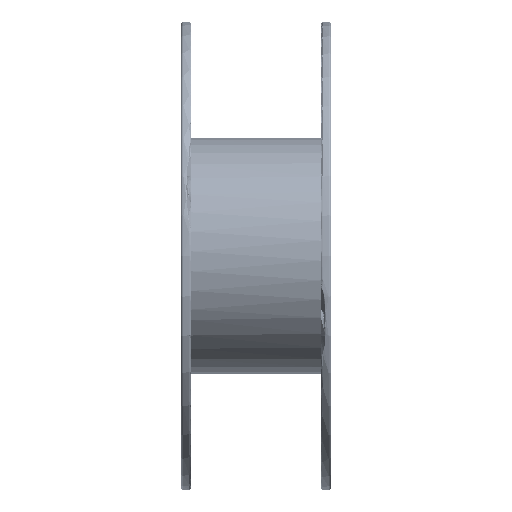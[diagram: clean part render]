
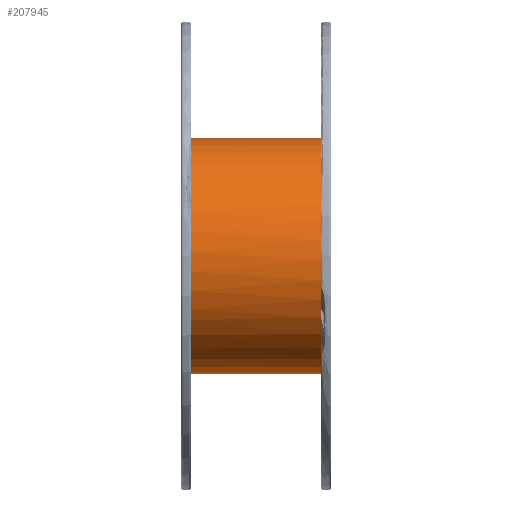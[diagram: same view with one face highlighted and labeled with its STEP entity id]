
A CAD part, front view. The second image highlights one B-rep face of the part: STEP entity #207945.
In plain terms, the highlighted cylindrical face has radius 50.3 mm (diameter 100.6 mm), a full revolution.
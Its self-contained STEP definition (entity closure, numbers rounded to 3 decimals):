
#11743=FACE_OUTER_BOUND('',#22799,.T.);
#22799=EDGE_LOOP('',(#139669,#139670,#139671,#139672,#139673,#139674,#139675,
#139676,#139677,#139678,#139679,#139680,#139681,#139682,#139683,#139684,
#139685,#139686,#139687,#139688));
#35437=LINE('',#295807,#56455);
#56455=VECTOR('',#237615,50.3);
#77473=CIRCLE('',#219023,50.3);
#77474=CIRCLE('',#219024,50.3);
#77475=CIRCLE('',#219026,50.3);
#77476=CIRCLE('',#219028,50.3);
#77477=CIRCLE('',#219030,50.3);
#77478=CIRCLE('',#219032,50.3);
#77479=CIRCLE('',#219033,50.3);
#77480=CIRCLE('',#219035,50.3);
#77481=CIRCLE('',#219037,50.3);
#77482=CIRCLE('',#219039,50.3);
#78461=ELLIPSE('',#219022,961.098,50.3);
#78462=ELLIPSE('',#219025,961.098,50.3);
#78463=ELLIPSE('',#219027,961.098,50.3);
#78464=ELLIPSE('',#219029,961.098,50.3);
#78465=ELLIPSE('',#219031,961.098,50.3);
#78466=ELLIPSE('',#219034,961.098,50.3);
#78467=ELLIPSE('',#219036,961.098,50.3);
#78468=ELLIPSE('',#219038,961.098,50.3);
#85947=VERTEX_POINT('',#295801);
#85948=VERTEX_POINT('',#295802);
#85949=VERTEX_POINT('',#295804);
#85950=VERTEX_POINT('',#295806);
#85951=VERTEX_POINT('',#295808);
#85952=VERTEX_POINT('',#295810);
#85953=VERTEX_POINT('',#295812);
#85954=VERTEX_POINT('',#295814);
#85955=VERTEX_POINT('',#295816);
#85956=VERTEX_POINT('',#295818);
#85957=VERTEX_POINT('',#295820);
#85958=VERTEX_POINT('',#295822);
#85959=VERTEX_POINT('',#295825);
#85960=VERTEX_POINT('',#295827);
#85961=VERTEX_POINT('',#295829);
#85962=VERTEX_POINT('',#295831);
#85963=VERTEX_POINT('',#295833);
#85964=VERTEX_POINT('',#295835);
#107383=EDGE_CURVE('',#85947,#85948,#78461,.T.);
#107384=EDGE_CURVE('',#85949,#85947,#77473,.T.);
#107385=EDGE_CURVE('',#85949,#85950,#35437,.T.);
#107386=EDGE_CURVE('',#85950,#85951,#77474,.T.);
#107387=EDGE_CURVE('',#85951,#85952,#78462,.T.);
#107388=EDGE_CURVE('',#85953,#85952,#77475,.T.);
#107389=EDGE_CURVE('',#85953,#85954,#78463,.T.);
#107390=EDGE_CURVE('',#85954,#85955,#77476,.T.);
#107391=EDGE_CURVE('',#85955,#85956,#78464,.T.);
#107392=EDGE_CURVE('',#85957,#85956,#77477,.T.);
#107393=EDGE_CURVE('',#85957,#85958,#78465,.T.);
#107394=EDGE_CURVE('',#85958,#85950,#77478,.T.);
#107395=EDGE_CURVE('',#85959,#85949,#77479,.T.);
#107396=EDGE_CURVE('',#85960,#85959,#78466,.T.);
#107397=EDGE_CURVE('',#85961,#85960,#77480,.T.);
#107398=EDGE_CURVE('',#85962,#85961,#78467,.T.);
#107399=EDGE_CURVE('',#85963,#85962,#77481,.T.);
#107400=EDGE_CURVE('',#85964,#85963,#78468,.T.);
#107401=EDGE_CURVE('',#85948,#85964,#77482,.T.);
#139669=ORIENTED_EDGE('',*,*,#107383,.F.);
#139670=ORIENTED_EDGE('',*,*,#107384,.F.);
#139671=ORIENTED_EDGE('',*,*,#107385,.T.);
#139672=ORIENTED_EDGE('',*,*,#107386,.T.);
#139673=ORIENTED_EDGE('',*,*,#107387,.T.);
#139674=ORIENTED_EDGE('',*,*,#107388,.F.);
#139675=ORIENTED_EDGE('',*,*,#107389,.T.);
#139676=ORIENTED_EDGE('',*,*,#107390,.T.);
#139677=ORIENTED_EDGE('',*,*,#107391,.T.);
#139678=ORIENTED_EDGE('',*,*,#107392,.F.);
#139679=ORIENTED_EDGE('',*,*,#107393,.T.);
#139680=ORIENTED_EDGE('',*,*,#107394,.T.);
#139681=ORIENTED_EDGE('',*,*,#107385,.F.);
#139682=ORIENTED_EDGE('',*,*,#107395,.F.);
#139683=ORIENTED_EDGE('',*,*,#107396,.F.);
#139684=ORIENTED_EDGE('',*,*,#107397,.F.);
#139685=ORIENTED_EDGE('',*,*,#107398,.F.);
#139686=ORIENTED_EDGE('',*,*,#107399,.F.);
#139687=ORIENTED_EDGE('',*,*,#107400,.F.);
#139688=ORIENTED_EDGE('',*,*,#107401,.F.);
#204241=CYLINDRICAL_SURFACE('',#219021,50.3);
#207945=ADVANCED_FACE('',(#11743),#204241,.T.);
#219021=AXIS2_PLACEMENT_3D('',#295800,#237609,#237610);
#219022=AXIS2_PLACEMENT_3D('',#295803,#237611,#237612);
#219023=AXIS2_PLACEMENT_3D('',#295805,#237613,#237614);
#219024=AXIS2_PLACEMENT_3D('',#295809,#237616,#237617);
#219025=AXIS2_PLACEMENT_3D('',#295811,#237618,#237619);
#219026=AXIS2_PLACEMENT_3D('',#295813,#237620,#237621);
#219027=AXIS2_PLACEMENT_3D('',#295815,#237622,#237623);
#219028=AXIS2_PLACEMENT_3D('',#295817,#237624,#237625);
#219029=AXIS2_PLACEMENT_3D('',#295819,#237626,#237627);
#219030=AXIS2_PLACEMENT_3D('',#295821,#237628,#237629);
#219031=AXIS2_PLACEMENT_3D('',#295823,#237630,#237631);
#219032=AXIS2_PLACEMENT_3D('',#295824,#237632,#237633);
#219033=AXIS2_PLACEMENT_3D('',#295826,#237634,#237635);
#219034=AXIS2_PLACEMENT_3D('',#295828,#237636,#237637);
#219035=AXIS2_PLACEMENT_3D('',#295830,#237638,#237639);
#219036=AXIS2_PLACEMENT_3D('',#295832,#237640,#237641);
#219037=AXIS2_PLACEMENT_3D('',#295834,#237642,#237643);
#219038=AXIS2_PLACEMENT_3D('',#295836,#237644,#237645);
#219039=AXIS2_PLACEMENT_3D('',#295837,#237646,#237647);
#237609=DIRECTION('center_axis',(-1.,0.,0.));
#237610=DIRECTION('ref_axis',(0.,0.,-1.));
#237611=DIRECTION('center_axis',(0.052,0.,
0.999));
#237612=DIRECTION('ref_axis',(0.999,0.,-0.052));
#237613=DIRECTION('center_axis',(-1.,0.,0.));
#237614=DIRECTION('ref_axis',(0.,0.,1.));
#237615=DIRECTION('',(1.,0.,0.));
#237616=DIRECTION('center_axis',(-1.,0.,0.));
#237617=DIRECTION('ref_axis',(0.,0.,-1.));
#237618=DIRECTION('center_axis',(0.052,0.865,-0.499));
#237619=DIRECTION('ref_axis',(-0.999,0.045,-0.026));
#237620=DIRECTION('center_axis',(1.,0.,0.));
#237621=DIRECTION('ref_axis',(0.,0.,-1.));
#237622=DIRECTION('center_axis',(0.052,0.,
0.999));
#237623=DIRECTION('ref_axis',(0.999,0.,-0.052));
#237624=DIRECTION('center_axis',(-1.,0.,0.));
#237625=DIRECTION('ref_axis',(0.,0.,-1.));
#237626=DIRECTION('center_axis',(0.052,0.,
0.999));
#237627=DIRECTION('ref_axis',(0.999,0.,-0.052));
#237628=DIRECTION('center_axis',(1.,0.,0.));
#237629=DIRECTION('ref_axis',(0.,0.,-1.));
#237630=DIRECTION('center_axis',(0.052,-0.865,
-0.499));
#237631=DIRECTION('ref_axis',(-0.999,-0.045,-0.026));
#237632=DIRECTION('center_axis',(-1.,0.,0.));
#237633=DIRECTION('ref_axis',(0.,0.,-1.));
#237634=DIRECTION('center_axis',(-1.,0.,0.));
#237635=DIRECTION('ref_axis',(0.,0.,1.));
#237636=DIRECTION('center_axis',(0.052,0.,
0.999));
#237637=DIRECTION('ref_axis',(0.999,0.,-0.052));
#237638=DIRECTION('center_axis',(-1.,0.,0.));
#237639=DIRECTION('ref_axis',(0.,0.,-1.));
#237640=DIRECTION('center_axis',(0.052,0.865,-0.499));
#237641=DIRECTION('ref_axis',(-0.999,0.045,-0.026));
#237642=DIRECTION('center_axis',(-1.,0.,0.));
#237643=DIRECTION('ref_axis',(0.,0.,1.));
#237644=DIRECTION('center_axis',(0.052,-0.865,
-0.499));
#237645=DIRECTION('ref_axis',(-0.999,-0.045,-0.026));
#237646=DIRECTION('center_axis',(-1.,0.,0.));
#237647=DIRECTION('ref_axis',(0.,0.,-1.));
#295800=CARTESIAN_POINT('Origin',(15.515,0.,
17.819));
#295801=CARTESIAN_POINT('',(-42.21,44.808,-5.035));
#295802=CARTESIAN_POINT('',(-44.81,44.877,-4.899));
#295803=CARTESIAN_POINT('Origin',(-478.306,0.,
17.819));
#295804=CARTESIAN_POINT('',(-42.21,0.,68.119));
#295805=CARTESIAN_POINT('Origin',(-42.21,0.,
17.819));
#295806=CARTESIAN_POINT('',(12.915,0.,68.119));
#295807=CARTESIAN_POINT('',(15.515,0.,68.119));
#295808=CARTESIAN_POINT('',(12.915,42.198,45.196));
#295809=CARTESIAN_POINT('Origin',(12.915,0.,
17.819));
#295810=CARTESIAN_POINT('',(15.515,42.114,45.324));
#295811=CARTESIAN_POINT('Origin',(449.032,0.,17.819));
#295812=CARTESIAN_POINT('',(15.515,44.877,40.538));
#295813=CARTESIAN_POINT('Origin',(15.515,0.,
17.819));
#295814=CARTESIAN_POINT('',(12.915,44.808,40.674));
#295815=CARTESIAN_POINT('Origin',(449.011,0.,
17.819));
#295816=CARTESIAN_POINT('',(12.915,-44.808,40.674));
#295817=CARTESIAN_POINT('Origin',(12.915,0.,
17.819));
#295818=CARTESIAN_POINT('',(15.515,-44.877,40.538));
#295819=CARTESIAN_POINT('Origin',(449.011,0.,
17.819));
#295820=CARTESIAN_POINT('',(15.515,-42.114,45.324));
#295821=CARTESIAN_POINT('Origin',(15.515,0.,
17.819));
#295822=CARTESIAN_POINT('',(12.915,-42.197,45.196));
#295823=CARTESIAN_POINT('Origin',(449.032,0.,17.819));
#295824=CARTESIAN_POINT('Origin',(12.915,0.,
17.819));
#295825=CARTESIAN_POINT('',(-42.21,-44.808,-5.035));
#295826=CARTESIAN_POINT('Origin',(-42.21,0.,
17.819));
#295827=CARTESIAN_POINT('',(-44.81,-44.877,-4.899));
#295828=CARTESIAN_POINT('Origin',(-478.306,0.,
17.819));
#295829=CARTESIAN_POINT('',(-44.81,-42.114,-9.685));
#295830=CARTESIAN_POINT('Origin',(-44.81,0.,
17.819));
#295831=CARTESIAN_POINT('',(-42.21,-42.197,-9.557));
#295832=CARTESIAN_POINT('Origin',(-478.328,0.,
17.819));
#295833=CARTESIAN_POINT('',(-42.21,42.198,-9.557));
#295834=CARTESIAN_POINT('Origin',(-42.21,0.,
17.819));
#295835=CARTESIAN_POINT('',(-44.81,42.114,-9.685));
#295836=CARTESIAN_POINT('Origin',(-478.328,0.,
17.819));
#295837=CARTESIAN_POINT('Origin',(-44.81,0.,
17.819));
